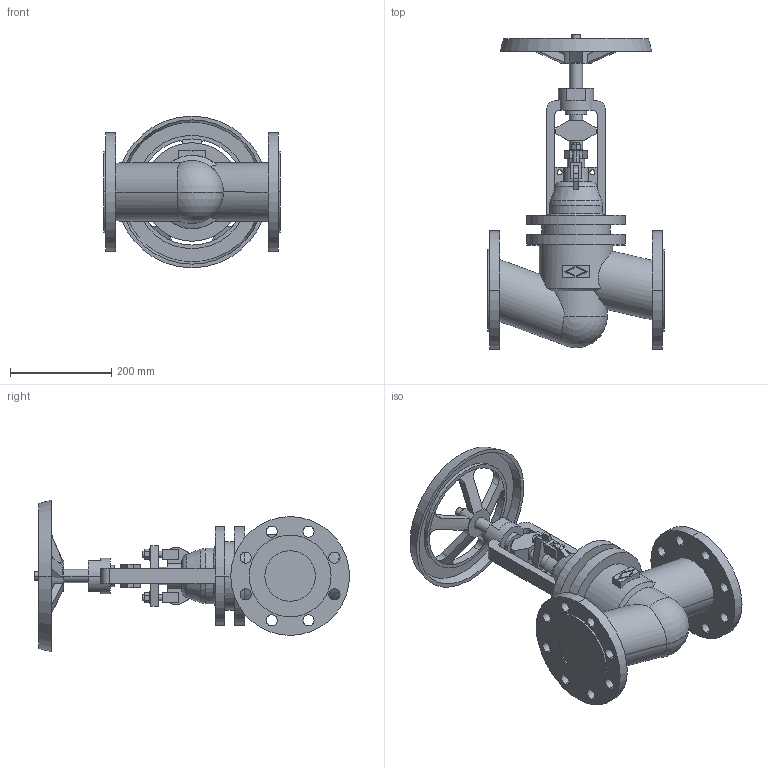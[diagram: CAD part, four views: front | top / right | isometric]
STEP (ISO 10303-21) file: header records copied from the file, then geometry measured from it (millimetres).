
FILE_DESCRIPTION(('OneSpaceDesigner STEP Export'),'2;1');
FILE_NAME('c000003754.stp','2009-06-16T10:59:51',(''),(''),'OneSpace Designer STEP processor for AP214 (Solid Model)','OneSpace Modeling 15.50B 03-Nov-2007 (C) CoCreate Software GmbH','');
FILE_SCHEMA(('AUTOMOTIVE_DESIGN { 1 0 10303 214 1 1 1 1 }'));
Length unit declared in the file: millimetre
Products named in the file (1): 1
Bounding box: 350 x 623.4 x 300 mm (x, y, z)
Volume: 9744981.7 mm3; surface area: 721526.2 mm2
Topology: 1 solids, 1 shells, 310 faces, 822 edges, 537 vertices
Faces by surface type: plane 149, cylinder 125, cone 22, torus 12, sphere 2
Entity records: 12264 total; most frequent: CARTESIAN_POINT 2487, ORIENTED_EDGE 1640, DIRECTION 1335, EDGE_CURVE 820, VERTEX_POINT 537, AXIS2_PLACEMENT_3D 454, VECTOR 427, LINE 427
